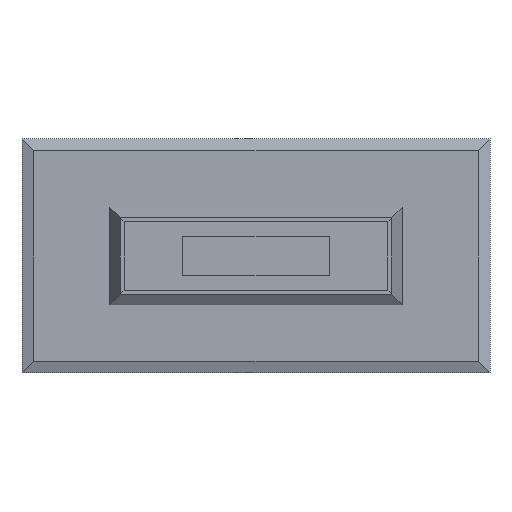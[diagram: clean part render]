
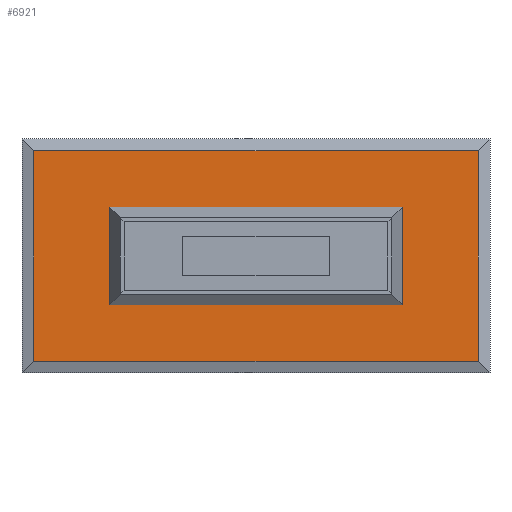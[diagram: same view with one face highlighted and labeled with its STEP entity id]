
A CAD part, front view. The second image highlights one B-rep face of the part: STEP entity #6921.
In plain terms, the highlighted planar face has unit normal (0, -1, 0).
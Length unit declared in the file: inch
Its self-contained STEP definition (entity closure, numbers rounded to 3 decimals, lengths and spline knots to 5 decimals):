
#1228=FACE_BOUND('',#1935,.T.);
#1229=FACE_BOUND('',#1936,.T.);
#1569=FACE_OUTER_BOUND('',#1934,.T.);
#1934=EDGE_LOOP('',(#5121,#5122,#5123,#5124));
#1935=EDGE_LOOP('',(#5125,#5126,#5127,#5128));
#1936=EDGE_LOOP('',(#5129,#5130,#5131,#5132));
#2423=LINE('',#11428,#2927);
#2424=LINE('',#11431,#2928);
#2425=LINE('',#11433,#2929);
#2426=LINE('',#11434,#2930);
#2427=LINE('',#11437,#2931);
#2428=LINE('',#11439,#2932);
#2429=LINE('',#11441,#2933);
#2430=LINE('',#11442,#2934);
#2431=LINE('',#11445,#2935);
#2432=LINE('',#11447,#2936);
#2433=LINE('',#11449,#2937);
#2434=LINE('',#11450,#2938);
#2927=VECTOR('',#9108,0.3937);
#2928=VECTOR('',#9111,0.3937);
#2929=VECTOR('',#9112,0.3937);
#2930=VECTOR('',#9113,0.3937);
#2931=VECTOR('',#9114,0.3937);
#2932=VECTOR('',#9115,0.3937);
#2933=VECTOR('',#9116,0.3937);
#2934=VECTOR('',#9117,0.3937);
#2935=VECTOR('',#9118,0.3937);
#2936=VECTOR('',#9119,0.3937);
#2937=VECTOR('',#9120,0.3937);
#2938=VECTOR('',#9121,0.3937);
#3360=VERTEX_POINT('',#11421);
#3363=VERTEX_POINT('',#11426);
#3364=VERTEX_POINT('',#11430);
#3365=VERTEX_POINT('',#11432);
#3366=VERTEX_POINT('',#11435);
#3367=VERTEX_POINT('',#11436);
#3368=VERTEX_POINT('',#11438);
#3369=VERTEX_POINT('',#11440);
#3370=VERTEX_POINT('',#11443);
#3371=VERTEX_POINT('',#11444);
#3372=VERTEX_POINT('',#11446);
#3373=VERTEX_POINT('',#11448);
#4017=EDGE_CURVE('',#3363,#3360,#2423,.T.);
#4018=EDGE_CURVE('',#3364,#3363,#2424,.T.);
#4019=EDGE_CURVE('',#3365,#3364,#2425,.T.);
#4020=EDGE_CURVE('',#3360,#3365,#2426,.T.);
#4021=EDGE_CURVE('',#3366,#3367,#2427,.T.);
#4022=EDGE_CURVE('',#3367,#3368,#2428,.T.);
#4023=EDGE_CURVE('',#3368,#3369,#2429,.T.);
#4024=EDGE_CURVE('',#3369,#3366,#2430,.T.);
#4025=EDGE_CURVE('',#3370,#3371,#2431,.T.);
#4026=EDGE_CURVE('',#3371,#3372,#2432,.T.);
#4027=EDGE_CURVE('',#3372,#3373,#2433,.T.);
#4028=EDGE_CURVE('',#3373,#3370,#2434,.T.);
#5121=ORIENTED_EDGE('',*,*,#4017,.F.);
#5122=ORIENTED_EDGE('',*,*,#4018,.F.);
#5123=ORIENTED_EDGE('',*,*,#4019,.F.);
#5124=ORIENTED_EDGE('',*,*,#4020,.F.);
#5125=ORIENTED_EDGE('',*,*,#4021,.T.);
#5126=ORIENTED_EDGE('',*,*,#4022,.T.);
#5127=ORIENTED_EDGE('',*,*,#4023,.T.);
#5128=ORIENTED_EDGE('',*,*,#4024,.T.);
#5129=ORIENTED_EDGE('',*,*,#4025,.T.);
#5130=ORIENTED_EDGE('',*,*,#4026,.T.);
#5131=ORIENTED_EDGE('',*,*,#4027,.T.);
#5132=ORIENTED_EDGE('',*,*,#4028,.T.);
#6602=PLANE('',#7791);
#6921=ADVANCED_FACE('',(#1569,#1228,#1229),#6602,.F.);
#7791=AXIS2_PLACEMENT_3D('',#11429,#9109,#9110);
#9108=DIRECTION('',(0.,0.,1.));
#9109=DIRECTION('center_axis',(0.,1.,0.));
#9110=DIRECTION('ref_axis',(0.,0.,1.));
#9111=DIRECTION('',(-1.,0.,0.));
#9112=DIRECTION('',(0.,0.,-1.));
#9113=DIRECTION('',(1.,0.,0.));
#9114=DIRECTION('',(1.,0.,0.));
#9115=DIRECTION('',(0.,0.,-1.));
#9116=DIRECTION('',(-1.,0.,0.));
#9117=DIRECTION('',(0.,0.,1.));
#9118=DIRECTION('',(0.,0.,-1.));
#9119=DIRECTION('',(-1.,0.,0.));
#9120=DIRECTION('',(0.,0.,1.));
#9121=DIRECTION('',(1.,0.,0.));
#11421=CARTESIAN_POINT('',(2.40404,0.,-2.40404));
#11426=CARTESIAN_POINT('',(2.40404,0.,-45.59596));
#11428=CARTESIAN_POINT('',(2.40404,0.,-36.));
#11429=CARTESIAN_POINT('Origin',(48.,0.,-24.));
#11430=CARTESIAN_POINT('',(93.59596,0.,-45.59596));
#11431=CARTESIAN_POINT('',(72.,0.,-45.59596));
#11432=CARTESIAN_POINT('',(93.59596,0.,-2.40404));
#11433=CARTESIAN_POINT('',(93.59596,0.,-12.));
#11434=CARTESIAN_POINT('',(24.,0.,-2.40404));
#11435=CARTESIAN_POINT('',(65.85924,0.,-21.5));
#11436=CARTESIAN_POINT('',(70.35924,0.,-21.5));
#11437=CARTESIAN_POINT('',(59.17962,0.,-21.5));
#11438=CARTESIAN_POINT('',(70.35924,0.,-26.5));
#11439=CARTESIAN_POINT('',(70.35924,0.,-25.25));
#11440=CARTESIAN_POINT('',(65.85924,0.,-26.5));
#11441=CARTESIAN_POINT('',(56.92962,0.,-26.5));
#11442=CARTESIAN_POINT('',(65.85924,0.,-22.75));
#11443=CARTESIAN_POINT('',(30.14076,0.,-21.5));
#11444=CARTESIAN_POINT('',(30.14076,0.,-26.5));
#11445=CARTESIAN_POINT('',(30.14076,0.,-25.25));
#11446=CARTESIAN_POINT('',(25.64076,0.,-26.5));
#11447=CARTESIAN_POINT('',(36.82038,0.,-26.5));
#11448=CARTESIAN_POINT('',(25.64076,0.,-21.5));
#11449=CARTESIAN_POINT('',(25.64076,0.,-22.75));
#11450=CARTESIAN_POINT('',(39.07038,0.,-21.5));
